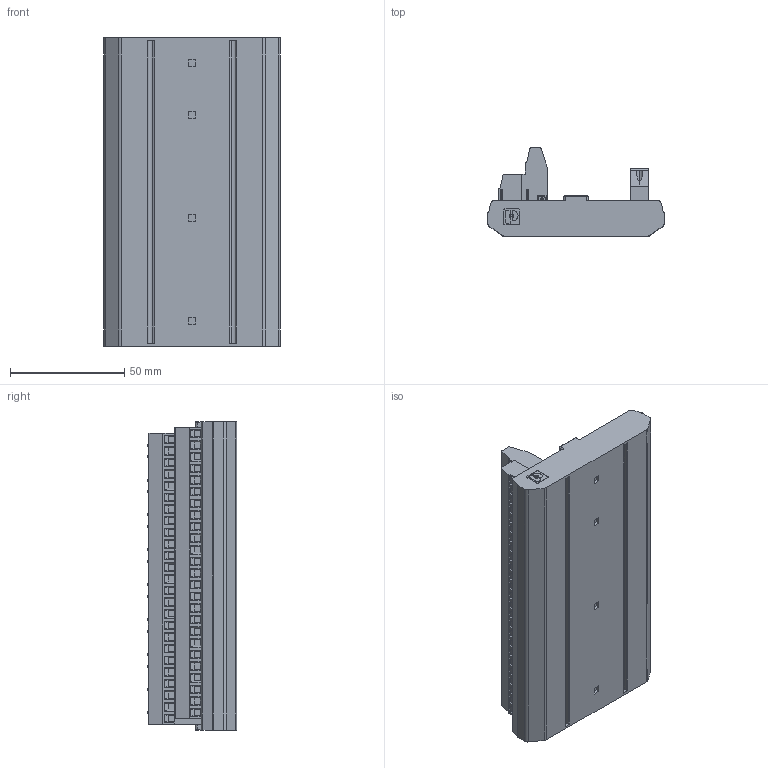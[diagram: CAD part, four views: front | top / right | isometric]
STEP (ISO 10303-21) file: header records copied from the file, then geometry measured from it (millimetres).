
FILE_DESCRIPTION((''),'2;1');
FILE_NAME('CU_CB50','2008-09-05T',('chrisj'),(''),'PRO/ENGINEER BY PARAMETRIC TECHNOLOGY CORPORATION, 2006300','PRO/ENGINEER BY PARAMETRIC TECHNOLOGY CORPORATION, 2006300','');
FILE_SCHEMA(('AUTOMOTIVE_DESIGN_CC2 { 1 2 10303 214 -1 1 5 2 }'));
Length unit declared in the file: inch
Products named in the file (1): CU_CB50
Bounding box: 77 x 39 x 134.9 mm (x, y, z)
Volume: 183044.8 mm3; surface area: 45998.7 mm2
Topology: 1 solids, 3 shells, 1113 faces, 3003 edges, 2042 vertices
Faces by surface type: plane 788, cylinder 309, sphere 16
Entity records: 35210 total; most frequent: CARTESIAN_POINT 6258, DIRECTION 6039, ORIENTED_EDGE 5974, EDGE_CURVE 2987, VECTOR 2129, LINE 2129, VERTEX_POINT 2042, AXIS2_PLACEMENT_3D 1955
